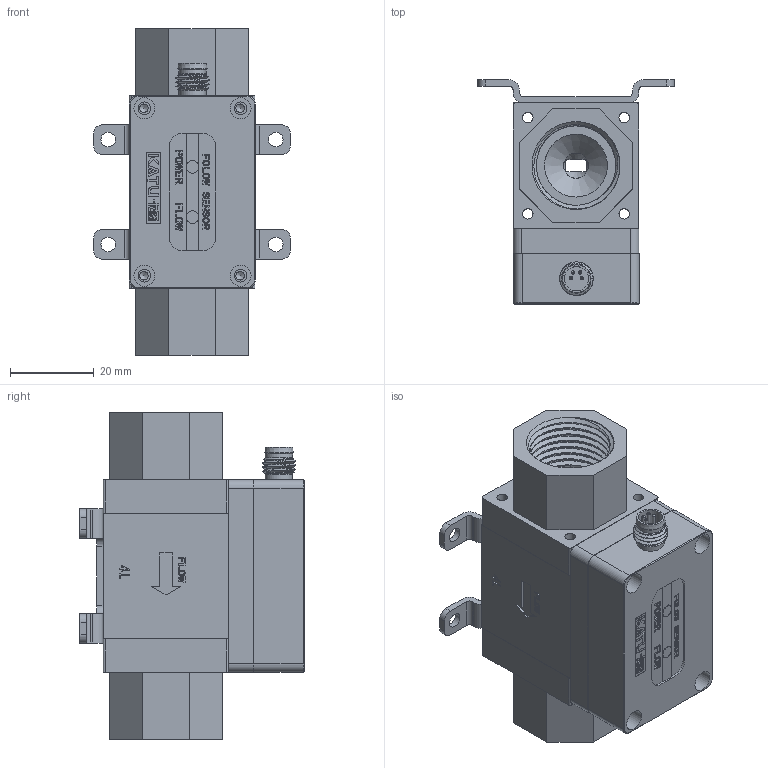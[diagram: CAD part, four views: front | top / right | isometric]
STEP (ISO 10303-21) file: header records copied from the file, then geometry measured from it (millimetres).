
FILE_DESCRIPTION( (''), '2;1');
FILE_NAME( 'QEKJ_4L_R3-8_M12_bracket.step', '2023-12-14T18:04:14+08:00', (''), (''), '', '', '');
FILE_SCHEMA (('AUTOMOTIVE_DESIGN { 1 0 10303 214 3 1 1 1 }'));
Length unit declared in the file: millimetre
Products named in the file (1): QEKJ 4L_R3-8_M12_bracket
Bounding box: 47 x 53.5 x 78 mm (x, y, z)
Volume: 25420.2 mm3; surface area: 38505.9 mm2
Topology: 4 solids, 6 shells, 1168 faces, 3121 edges, 2070 vertices
Faces by surface type: plane 761, cylinder 238, extrusion 117, cone 38, bspline 14
Full cylindrical faces by diameter (mm): 0.8 x8, 1.5 x2, 1.6 x2, 1.7 x2, 2 x6, 2.05 x8, 2.5 x12, 3 x18, 3.5 x5, 4 x3, 5 x4, 5.5 x1, 5.8 x1, 6 x4, 6.5 x2, 7 x1, 7.5 x1, 8.5 x1, 9.5 x2, 12 x2, 12.5 x2, 19 x12
Entity records: 44144 total; most frequent: CARTESIAN_POINT 16696, ORIENTED_EDGE 5788, DIRECTION 4948, EDGE_CURVE 2894, VERTEX_POINT 1990, VECTOR 1896, LINE 1779, AXIS2_PLACEMENT_3D 1526
